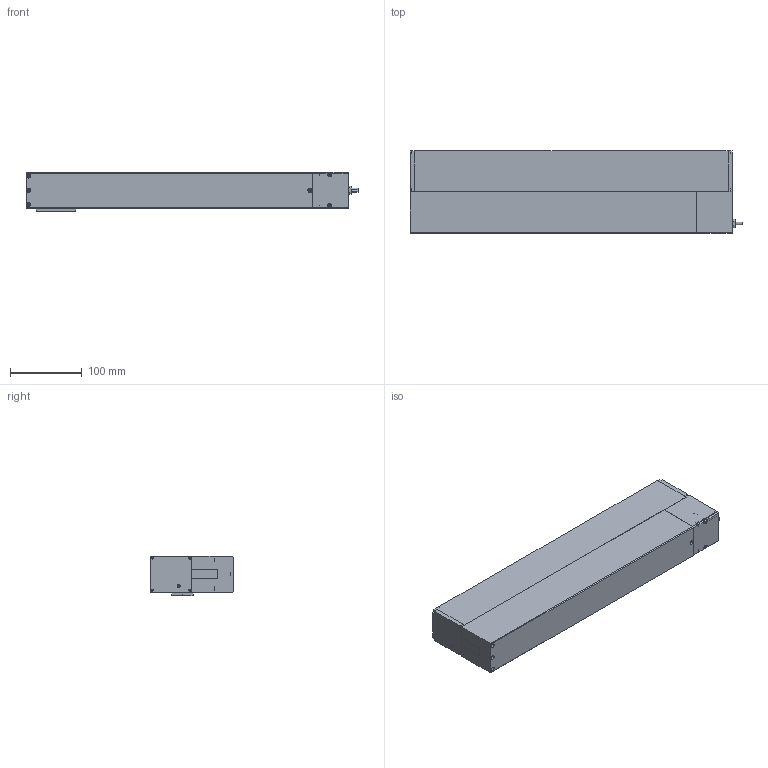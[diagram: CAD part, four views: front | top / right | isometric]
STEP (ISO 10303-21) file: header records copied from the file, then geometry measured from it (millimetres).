
FILE_DESCRIPTION (( 'STEP AP203' ), '1' );
FILE_NAME ('LCS50-250-6 OUTLINE.STEP', '2018-11-14T21:30:52', ( '' ), ( '' ), 'SwSTEP 2.0', 'SolidWorks 2018', '' );
FILE_SCHEMA (( 'CONFIG_CONTROL_DESIGN' ));
Length unit declared in the file: millimetre
Products named in the file (1): LCS50-250-6 OUTLINE
Bounding box: 463.5 x 115.1 x 55.04 mm (x, y, z)
Volume: 1072325.6 mm3; surface area: 405694.7 mm2
Topology: 10 solids, 10 shells, 693 faces, 1831 edges, 1128 vertices
Faces by surface type: cylinder 321, plane 244, cone 110, torus 18
Entity records: 21563 total; most frequent: CARTESIAN_POINT 3999, DIRECTION 3814, ORIENTED_EDGE 3494, EDGE_CURVE 1747, AXIS2_PLACEMENT_3D 1397, VERTEX_POINT 1128, VECTOR 1020, LINE 1020
